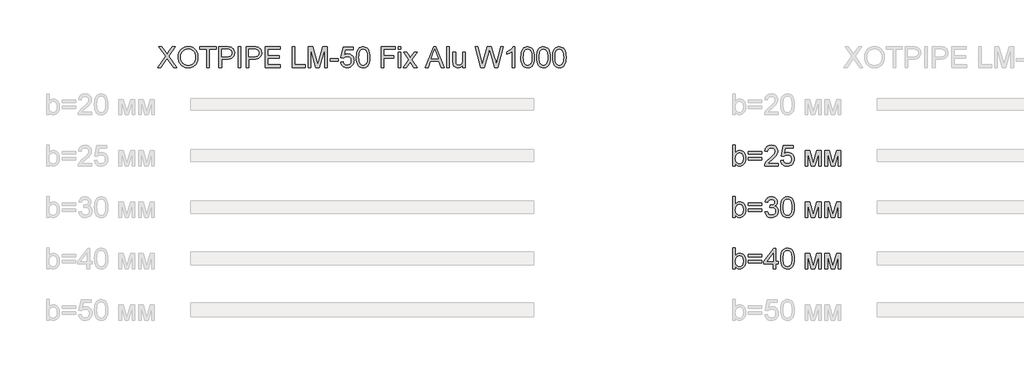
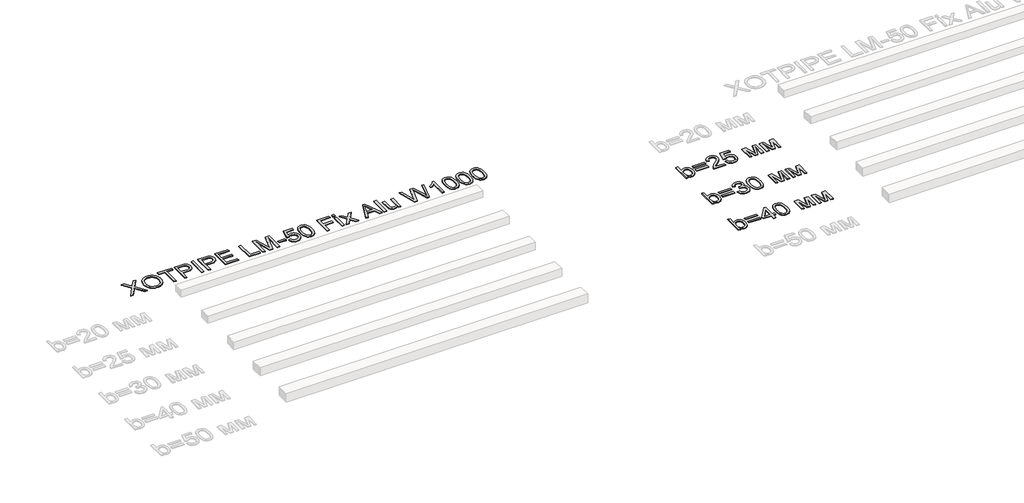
# One storey, part 81 of 86: 4 proxies.
"""IFC4 building model written with IfcOpenShell, lengths in millimetres."""

from ifc_helpers import new_model, si_unit, origin, origin_with_axes, place, context, project, spatial, polyline, outline, extrude, element, save

model = new_model("IFC4")

# Units and contexts
model_context = context("Model", 3, world=origin())
ifc_project = project(units=[si_unit("LENGTHUNIT", "METRE", prefix="MILLI")], contexts=[model_context])

# Site, building, storey
site = spatial("IfcSite", under=ifc_project)
building = spatial("IfcBuilding", under=site)
storey = spatial("IfcBuildingStorey", under=building, Name="Уровень 1", Elevation=0.0)

# Proxies
placement = place(None, origin())
element("IfcBuildingElementProxy", 1, Name="Текст модели 1", ObjectType="Текст модели 1", at=placement, inside=storey, context=model_context, shape_type="SweptSolid", body=[
    extrude(outline(polyline([(92931.546453, 70543.2937088), (93163.9007211, 70871.7387541), (92969.2175693, 71146.0315697), (93059.5693873, 71146.0315697), (93169.1982219, 70991.6682845), (93195.3546317, 70952.5624284), (93206.1335742, 70931.4827901), (93249.3964968, 70992.6983541), (93357.848109, 71146.0315697), (93449.5243022, 71146.0315697), (93254.8411503, 70870.8558373), (93487.1954185, 70543.2937088), (93396.8436005, 70543.2937088), (93242.0388569, 70761.6684611), (93209.8123941, 70806.9915229), (93174.3485698, 70757.2538772), (93023.2226462, 70543.2937088), (92931.546453, 70543.2937088)])), origin_with_axes(), (0.0, 0.0, 1.0), 20.0),
    extrude(outline(polyline([(93534.2843139, 70836.7163882), (93539.3059031, 70907.4141106), (93554.3706708, 70970.000035), (93579.478617, 71024.4741614), (93595.798782, 71048.6693004), (93614.6297416, 71070.8364899), (93657.7179203, 71107.8546156), (93706.6370286, 71134.2961341), (93761.3870665, 71150.1610451), (93821.9680341, 71155.4493488), (93862.517827, 71152.9661453), (93901.0258749, 71145.5165349), (93937.4921776, 71133.1005176), (93971.9167353, 71115.7180933), (94003.3338577, 71093.8934939), (94030.7778546, 71068.1509513), (94054.2487258, 71038.4904655), (94073.7464716, 71004.9120363), (94089.0687567, 70968.1790191), (94100.013246, 70929.0547689), (94106.5799397, 70887.5392858), (94108.7688375, 70843.6325697), (94106.4649765, 70799.1464394), (94099.5533936, 70757.0699362), (94088.0340886, 70717.4030601), (94071.9070616, 70680.145811), (94051.5539902, 70646.2822733), (94027.356552, 70616.7965314), (93999.3147469, 70591.6885853), (93967.428575, 70570.9584348), (93932.9534335, 70554.7348388), (93897.1447198, 70543.146556), (93860.0024339, 70536.1935863), (93821.5265757, 70533.8759297), (93780.2686099, 70536.4373081), (93741.2547244, 70544.1214433), (93704.4849189, 70556.9283352), (93669.9591937, 70574.857984), (93638.5788595, 70597.2160122), (93611.2452273, 70623.3080427), (93587.958297, 70653.1340755), (93568.7180686, 70686.6941105), (93553.6533009, 70722.64078), (93542.8927526, 70759.6267161), (93536.4364235, 70797.6519188), (93534.2843139, 70836.7163882)]), holes=[polyline([(93609.6265465, 70835.9806242), (93613.3927384, 70786.0314463), (93624.6913142, 70741.6924688), (93643.5222738, 70702.9636918), (93669.8856173, 70669.8451151), (93701.9327376, 70643.3208233), (93737.8150277, 70624.3749005), (93777.5324876, 70613.0073469), (93821.0851173, 70609.2181623), (93865.382708, 70613.0441351), (93905.5692175, 70624.5220533), (93941.6446456, 70643.6519171), (93973.6089925, 70670.4337263), (93999.7791979, 70704.2512787), (94018.4722018, 70744.488372), (94029.6880041, 70791.145006), (94033.4266049, 70844.2211809), (94031.8263182, 70878.7009209), (94027.0254582, 70910.9181866), (94019.0240248, 70940.872978), (94007.8220181, 70968.5652952), (93993.5435981, 70993.6318547), (93976.3129252, 71015.7093729), (93956.1299992, 71034.7978499), (93932.9948202, 71050.8972857), (93907.6247581, 71063.6765866), (93880.7371828, 71072.8046586), (93852.3320943, 71078.2815018), (93822.4094925, 71080.1071162), (93780.3697775, 71076.5892446), (93741.365089, 71066.0356298), (93705.3954269, 71048.446272), (93672.4607913, 71023.8211709), (93644.9708092, 70990.9739073), (93625.3351077, 70948.7180616), (93613.5536868, 70897.0536339), (93609.6265465, 70835.9806242)])]), origin_with_axes(), (0.0, 0.0, 1.0), 20.0),
    extrude(outline(polyline([(94363.0488726, 70543.2937088), (94363.0488726, 71070.6893371), (94165.275512, 71070.6893371), (94165.275512, 71146.0315697), (94636.1644658, 71146.0315697), (94636.1644658, 71070.6893371), (94438.3911052, 71070.6893371), (94438.3911052, 70543.2937088), (94363.0488726, 70543.2937088)])), origin_with_axes(), (0.0, 0.0, 1.0), 20.0),
    extrude(outline(polyline([(94720.9244775, 70543.2937088), (94720.9244775, 71146.0315697), (94944.302425, 71146.0315697), (94996.3209391, 71144.5968299), (95034.3599374, 71140.2926106), (95074.5142572, 71129.5688504), (95107.5684544, 71112.1128497), (95134.1847168, 71087.1336623), (95155.0252318, 71053.8403417), (95168.4897128, 71014.5689387), (95172.9778732, 70971.655504), (95169.9474452, 70934.6557723), (95160.8561614, 70900.6174907), (95145.7040218, 70869.5406592), (95124.4910262, 70841.4252777), (95095.3685678, 70818.1199533), (95056.4880394, 70801.473293), (95007.8494411, 70791.4852968), (94949.4527729, 70788.1559648), (94796.2667101, 70788.1559648), (94796.2667101, 70543.2937088), (94720.9244775, 70543.2937088)]), holes=[polyline([(94796.2667101, 70863.4981974), (94953.8673569, 70863.4981974), (94990.1037334, 70865.2272428), (95020.6747272, 70870.4143789), (95045.5803383, 70879.0596058), (95064.8205666, 70891.1629234), (95079.1771615, 70906.4024351), (95089.4318721, 70924.456244), (95095.5846984, 70945.3243502), (95097.6356406, 70969.0067536), (95092.7979923, 71002.8518972), (95078.2850476, 71031.39954), (95055.8994282, 71052.8838485), (95027.4437559, 71065.5389892), (94998.3810783, 71069.4017501), (94952.1015233, 71070.6893371), (94796.2667101, 71070.6893371), (94796.2667101, 70863.4981974)])]), origin_with_axes(), (0.0, 0.0, 1.0), 20.0),
    extrude(outline(polyline([(95285.9912221, 70543.2937088), (95285.9912221, 71146.0315697), (95361.3334547, 71146.0315697), (95361.3334547, 70543.2937088), (95285.9912221, 70543.2937088)])), origin_with_axes(), (0.0, 0.0, 1.0), 20.0),
    extrude(outline(polyline([(95512.0179199, 70543.2937088), (95512.0179199, 71146.0315697), (95735.3958674, 71146.0315697), (95787.4143815, 71144.5968299), (95825.4533798, 71140.2926106), (95865.6076996, 71129.5688504), (95898.6618969, 71112.1128497), (95925.2781592, 71087.1336623), (95946.1186742, 71053.8403417), (95959.5831553, 71014.5689387), (95964.0713156, 70971.655504), (95961.0408877, 70934.6557723), (95951.9496039, 70900.6174907), (95936.7974642, 70869.5406592), (95915.5844686, 70841.4252777), (95886.4620102, 70818.1199533), (95847.5814818, 70801.473293), (95798.9428835, 70791.4852968), (95740.5462153, 70788.1559648), (95587.3601525, 70788.1559648), (95587.3601525, 70543.2937088), (95512.0179199, 70543.2937088)]), holes=[polyline([(95587.3601525, 70863.4981974), (95744.9607993, 70863.4981974), (95781.1971758, 70865.2272428), (95811.7681696, 70870.4143789), (95836.6737807, 70879.0596058), (95855.914009, 70891.1629234), (95870.2706039, 70906.4024351), (95880.5253145, 70924.456244), (95886.6781409, 70945.3243502), (95888.729083, 70969.0067536), (95883.8914348, 71002.8518972), (95869.3784901, 71031.39954), (95846.9928706, 71052.8838485), (95818.5371983, 71065.5389892), (95789.4745207, 71069.4017501), (95743.1949657, 71070.6893371), (95587.3601525, 71070.6893371), (95587.3601525, 70863.4981974)])]), origin_with_axes(), (0.0, 0.0, 1.0), 20.0),
    extrude(outline(polyline([(96067.6668855, 70543.2937088), (96067.6668855, 71146.0315697), (96500.884723, 71146.0315697), (96500.884723, 71070.6893371), (96143.0091181, 71070.6893371), (96143.0091181, 70891.7515346), (96482.0491648, 70891.7515346), (96482.0491648, 70816.409302), (96143.0091181, 70816.409302), (96143.0091181, 70618.6359414), (96510.302502, 70618.6359414), (96510.302502, 70543.2937088), (96067.6668855, 70543.2937088)])), origin_with_axes(), (0.0, 0.0, 1.0), 20.0),
    extrude(outline(polyline([(96858.7603279, 70543.2937088), (96858.7603279, 71146.0315697), (96934.1025605, 71146.0315697), (96934.1025605, 70618.6359414), (97235.4714909, 70618.6359414), (97235.4714909, 70543.2937088), (96858.7603279, 70543.2937088)])), origin_with_axes(), (0.0, 0.0, 1.0), 20.0),
    extrude(outline(polyline([(97320.2315026, 70543.2937088), (97320.2315026, 71146.0315697), (97449.8731177, 71146.0315697), (97573.1871625, 70721.2014417), (97598.0559854, 70632.4683044), (97624.9849474, 70728.5590816), (97746.238853, 71146.0315697), (97875.8804681, 71146.0315697), (97875.8804681, 70543.2937088), (97800.5382355, 70543.2937088), (97800.5382355, 71070.6893371), (97649.1180063, 70543.2937088), (97546.9939645, 70543.2937088), (97395.5737352, 71070.6893371), (97395.5737352, 70543.2937088), (97320.2315026, 70543.2937088)])), origin_with_axes(), (0.0, 0.0, 1.0), 20.0),
    extrude(outline(polyline([(97960.6404798, 70722.2315113), (97960.6404798, 70797.5737439), (98196.0849567, 70797.5737439), (98196.0849567, 70722.2315113), (97960.6404798, 70722.2315113)])), origin_with_axes(), (0.0, 0.0, 1.0), 20.0),
    extrude(outline(polyline([(98262.0094103, 70703.3959531), (98337.3516429, 70712.8137322), (98342.9802374, 70688.5933013), (98351.1840059, 70667.5826409), (98361.9629484, 70649.7817508), (98375.3170648, 70635.1906312), (98391.218764, 70623.8276761), (98409.6404549, 70615.7112795), (98430.5821375, 70610.8414416), (98454.0438118, 70609.2181623), (98482.7386074, 70611.4760381), (98508.0488887, 70618.2496653), (98529.9746556, 70629.539044), (98548.5159081, 70645.3441743), (98563.2587791, 70664.8833067), (98573.7894012, 70687.3746922), (98580.1077745, 70712.8183307), (98582.2138989, 70741.2142222), (98580.2411317, 70768.0512138), (98574.3228301, 70791.9083611), (98564.4589941, 70812.7856644), (98550.6496237, 70830.6831234), (98532.8487337, 70845.0397183), (98511.0103387, 70855.2944289), (98485.1344389, 70861.4472553), (98455.2210341, 70863.4981974), (98418.6719579, 70860.2240476), (98389.0758514, 70850.4015984), (98365.4394332, 70835.3552248), (98346.769422, 70816.409302), (98271.4271894, 70825.8270811), (98337.3516429, 71136.6137906), (98629.3027943, 71136.6137906), (98629.3027943, 71061.271558), (98398.2729013, 71061.271558), (98366.0464385, 70895.2832018), (98392.6351097, 70914.3394891), (98419.8675744, 70927.951123), (98447.7438326, 70936.1181032), (98476.2638843, 70938.84043), (98512.9555148, 70935.4651127), (98546.658104, 70925.3391608), (98577.3716521, 70908.4625743), (98605.096159, 70884.8353531), (98628.047397, 70855.9014342), (98644.4411384, 70823.1047543), (98654.2773832, 70786.4453135), (98657.5561315, 70745.9231117), (98654.6038785, 70706.8908321), (98645.7471195, 70670.5808791), (98630.9858544, 70636.993253), (98610.3200833, 70606.1279536), (98579.0133255, 70574.5176931), (98542.4826434, 70551.9389357), (98500.728037, 70538.3916812), (98453.7495062, 70533.8759297), (98414.8689778, 70536.777599), (98379.7500428, 70545.4826067), (98348.3927013, 70559.9909529), (98320.7969531, 70580.3026375), (98297.8365181, 70605.4059852), (98280.3851159, 70634.2893203), (98268.4427467, 70666.952643), (98262.0094103, 70703.3959531)])), origin_with_axes(), (0.0, 0.0, 1.0), 20.0),
    extrude(outline(polyline([(98723.480585, 70839.8065969), (98729.0172091, 70936.2836501), (98735.9379891, 70977.1967265), (98745.6270811, 71013.2261694), (98758.0430985, 71044.6662845), (98773.1446544, 71071.8113772), (98790.9317488, 71094.6614476), (98811.4043819, 71113.2164957), (98834.6315313, 71127.5730906), (98860.6821751, 71137.8278012), (98889.5563132, 71143.9806276), (98921.2539456, 71146.0315697), (98967.6806534, 71141.1755274), (99009.2513189, 71126.6074004), (99044.0161674, 71102.8974058), (99070.0254245, 71070.6157607), (99089.670323, 71030.0383766), (99105.342096, 70981.4411651), (99115.6060037, 70919.7289604), (99119.0273062, 70839.8065969), (99113.5458645, 70743.8813667), (99106.6940624, 70703.106246), (99097.1015393, 70667.1227884), (99084.782091, 70635.6688778), (99069.749513, 70608.4823983), (99052.0038052, 70585.56335), (99031.5449678, 70566.9117329), (99008.2902272, 70552.458569), (98982.1568099, 70542.1348805), (98953.1447161, 70535.9406674), (98921.2539456, 70533.8759297), (98879.7568566, 70537.4627792), (98842.9686571, 70548.2233275), (98810.8893471, 70566.1575748), (98783.5189266, 70591.265521), (98757.2521522, 70636.6529621), (98738.4901704, 70693.2056218), (98727.2329814, 70760.9235001), (98723.480585, 70839.8065969)]), holes=[polyline([(98798.8228176, 70839.9537497), (98801.0301096, 70774.456959), (98807.6519855, 70721.440565), (98818.6884454, 70680.9045676), (98834.1394892, 70652.848967), (98852.8278945, 70633.7604899), (98873.5764391, 70620.1258635), (98896.3851228, 70611.9450876), (98921.2539456, 70609.2181623), (98946.1227685, 70611.9542847), (98968.9314522, 70620.1626517), (98989.6799967, 70633.8432634), (99008.3684021, 70652.9961198), (99023.8194459, 70681.0977057), (99034.8559057, 70721.624506), (99041.4777817, 70774.5765206), (99043.6850736, 70839.9537497), (99041.5513581, 70903.7168965), (99035.1502113, 70955.79979), (99024.4816335, 70996.2024301), (99009.5456245, 71024.9248169), (98991.1699188, 71044.9467945), (98970.182251, 71059.248207), (98946.582621, 71067.8290546), (98920.3710288, 71070.6893371), (98895.6309647, 71068.1693454), (98873.2085571, 71060.6093704), (98853.103806, 71048.0094121), (98835.3167116, 71030.3694704), (98819.350633, 70999.0995008), (98807.9462911, 70956.9402242), (98801.103686, 70903.8916405), (98798.8228176, 70839.9537497)])]), origin_with_axes(), (0.0, 0.0, 1.0), 20.0),
    extrude(outline(polyline([(99448.6495739, 70543.2937088), (99448.6495739, 71146.0315697), (99853.6140742, 71146.0315697), (99853.6140742, 71070.6893371), (99523.9918065, 71070.6893371), (99523.9918065, 70891.7515346), (99806.5251788, 70891.7515346), (99806.5251788, 70816.409302), (99523.9918065, 70816.409302), (99523.9918065, 70543.2937088), (99448.6495739, 70543.2937088)])), origin_with_axes(), (0.0, 0.0, 1.0), 20.0),
    extrude(outline(polyline([(99947.791865, 70543.2937088), (99947.791865, 70985.9293254), (100023.1340976, 70985.9293254), (100023.1340976, 70543.2937088), (99947.791865, 70543.2937088)])), origin_with_axes(), (0.0, 0.0, 1.0), 20.0),
    extrude(outline(polyline([(99947.791865, 71070.6893371), (99947.791865, 71146.0315697), (100023.1340976, 71146.0315697), (100023.1340976, 71070.6893371), (99947.791865, 71070.6893371)])), origin_with_axes(), (0.0, 0.0, 1.0), 20.0),
    extrude(outline(polyline([(100089.0585511, 70543.2937088), (100250.0437122, 70765.7887395), (100098.4763302, 70985.9293254), (100189.1224538, 70985.9293254), (100262.2573945, 70879.9793108), (100296.3968436, 70829.9473594), (100325.974556, 70870.8558373), (100409.2630397, 70985.9293254), (100499.9091633, 70985.9293254), (100340.6898358, 70765.7887395), (100494.0230514, 70543.2937088), (100403.3769278, 70543.2937088), (100311.1121234, 70677.0556022), (100294.1895516, 70701.4829667), (100179.7046747, 70543.2937088), (100089.0585511, 70543.2937088)])), origin_with_axes(), (0.0, 0.0, 1.0), 20.0),
    extrude(outline(polyline([(100734.6178763, 70543.2937088), (100975.2127011, 71146.0315697), (101039.3713211, 71146.0315697), (101279.9661459, 70543.2937088), (101200.3564822, 70543.2937088), (101131.3418199, 70731.6492903), (100883.0950495, 70731.6492903), (100814.22754, 70543.2937088), (100734.6178763, 70543.2937088)]), holes=[polyline([(100910.7597756, 70806.9915229), (101103.8242466, 70806.9915229), (101049.5248641, 70955.1743906), (101007.2920111, 71070.6893371), (100969.7680476, 70968.1238368), (100910.7597756, 70806.9915229)])]), origin_with_axes(), (0.0, 0.0, 1.0), 20.0),
    extrude(outline(polyline([(101351.0409474, 70543.2937088), (101351.0409474, 71146.0315697), (101426.38318, 71146.0315697), (101426.38318, 70543.2937088), (101351.0409474, 70543.2937088)])), origin_with_axes(), (0.0, 0.0, 1.0), 20.0),
    extrude(outline(polyline([(101821.9299012, 70543.2937088), (101821.9299012, 70619.3717054), (101794.6698454, 70581.9673035), (101762.9216292, 70555.2498736), (101726.6852527, 70539.2194157), (101685.9607158, 70533.8759297), (101649.2644868, 70537.6283261), (101615.1066435, 70548.8855151), (101586.4486361, 70565.8080869), (101566.2519146, 70586.5566314), (101552.6586748, 70611.7565481), (101543.8111129, 70642.0332363), (101539.3965289, 70712.0779682), (101539.3965289, 70985.9293254), (101614.7387615, 70985.9293254), (101614.7387615, 70747.5417925), (101615.8791957, 70699.8642859), (101619.3004983, 70670.7280319), (101630.2817758, 70645.105051), (101649.0989399, 70625.6256993), (101674.5011916, 70613.3200466), (101705.2377323, 70609.2181623), (101737.7401066, 70613.4120171), (101768.1455535, 70625.9935813), (101793.2167115, 70645.8040268), (101809.716219, 70671.6845251), (101818.8764806, 70707.1299554), (101821.9299012, 70755.6351964), (101821.9299012, 70985.9293254), (101897.2721338, 70985.9293254), (101897.2721338, 70543.2937088), (101821.9299012, 70543.2937088)])), origin_with_axes(), (0.0, 0.0, 1.0), 20.0),
    extrude(outline(polyline([(102353.5929606, 70543.2937088), (102189.2232852, 71146.0315697), (102266.9199626, 71146.0315697), (102362.2749757, 70749.8962373), (102391.7055353, 70627.6122621), (102423.1962341, 70735.7695687), (102542.6843062, 71146.0315697), (102654.6675855, 71146.0315697), (102741.4877364, 70848.6357648), (102778.6806061, 70738.2711662), (102806.0878147, 70627.6122621), (102834.6354575, 70746.3645701), (102930.8733875, 71146.0315697), (103008.5700649, 71146.0315697), (102844.0532366, 70543.2937088), (102763.5606561, 70543.2937088), (102619.0566084, 71008.2965507), (102598.896675, 71073.1909347), (102576.2351441, 70995.0527989), (102444.5333898, 70543.2937088), (102353.5929606, 70543.2937088)])), origin_with_axes(), (0.0, 0.0, 1.0), 20.0),
    extrude(outline(polyline([(103338.1923325, 70543.2937088), (103262.8500999, 70543.2937088), (103262.8500999, 71013.0054402), (103231.3961893, 70987.5664003), (103191.4809929, 70962.1641485), (103149.5792336, 70939.9624701), (103112.1656347, 70924.1251502), (103112.1656347, 70995.3471045), (103171.3394536, 71027.5367791), (103222.6038096, 71065.8332947), (103263.0156468, 71106.5578316), (103289.6319092, 71146.0315697), (103338.1923325, 71146.0315697), (103338.1923325, 70543.2937088)])), origin_with_axes(), (0.0, 0.0, 1.0), 20.0),
    extrude(outline(polyline([(103517.130135, 70839.8065969), (103522.666759, 70936.2836501), (103529.587539, 70977.1967265), (103539.2766311, 71013.2261694), (103551.6926484, 71044.6662845), (103566.7942043, 71071.8113772), (103584.5812988, 71094.6614476), (103605.0539318, 71113.2164957), (103628.2810813, 71127.5730906), (103654.3317251, 71137.8278012), (103683.2058632, 71143.9806276), (103714.9034956, 71146.0315697), (103761.3302034, 71141.1755274), (103802.9008688, 71126.6074004), (103837.6657174, 71102.8974058), (103863.6749744, 71070.6157607), (103883.319873, 71030.0383766), (103898.991646, 70981.4411651), (103909.2555536, 70919.7289604), (103912.6768562, 70839.8065969), (103907.1954145, 70743.8813667), (103900.3436123, 70703.106246), (103890.7510893, 70667.1227884), (103878.431641, 70635.6688778), (103863.3990629, 70608.4823983), (103845.6533552, 70585.56335), (103825.1945177, 70566.9117329), (103801.9397771, 70552.458569), (103775.8063599, 70542.1348805), (103746.794266, 70535.9406674), (103714.9034956, 70533.8759297), (103673.4064065, 70537.4627792), (103636.618207, 70548.2233275), (103604.538897, 70566.1575748), (103577.1684766, 70591.265521), (103550.9017021, 70636.6529621), (103532.1397204, 70693.2056218), (103520.8825313, 70760.9235001), (103517.130135, 70839.8065969)]), holes=[polyline([(103592.4723676, 70839.9537497), (103594.6796596, 70774.456959), (103601.3015355, 70721.440565), (103612.3379953, 70680.9045676), (103627.7890391, 70652.848967), (103646.4774445, 70633.7604899), (103667.225989, 70620.1258635), (103690.0346727, 70611.9450876), (103714.9034956, 70609.2181623), (103739.7723185, 70611.9542847), (103762.5810022, 70620.1626517), (103783.3295467, 70633.8432634), (103802.017952, 70652.9961198), (103817.4689958, 70681.0977057), (103828.5054557, 70721.624506), (103835.1273316, 70774.5765206), (103837.3346236, 70839.9537497), (103835.200908, 70903.7168965), (103828.7997613, 70955.79979), (103818.1311834, 70996.2024301), (103803.1951744, 71024.9248169), (103784.8194688, 71044.9467945), (103763.8318009, 71059.248207), (103740.232171, 71067.8290546), (103714.0205788, 71070.6893371), (103689.2805146, 71068.1693454), (103666.858107, 71060.6093704), (103646.753356, 71048.0094121), (103628.9662615, 71030.3694704), (103613.0001829, 70999.0995008), (103601.5958411, 70956.9402242), (103594.753236, 70903.8916405), (103592.4723676, 70839.9537497)])]), origin_with_axes(), (0.0, 0.0, 1.0), 20.0),
    extrude(outline(polyline([(103978.6013097, 70839.8065969), (103984.1379338, 70936.2836501), (103991.0587138, 70977.1967265), (104000.7478058, 71013.2261694), (104013.1638232, 71044.6662845), (104028.2653791, 71071.8113772), (104046.0524735, 71094.6614476), (104066.5251066, 71113.2164957), (104089.7522561, 71127.5730906), (104115.8028998, 71137.8278012), (104144.6770379, 71143.9806276), (104176.3746703, 71146.0315697), (104222.8013781, 71141.1755274), (104264.3720436, 71126.6074004), (104299.1368921, 71102.8974058), (104325.1461492, 71070.6157607), (104344.7910477, 71030.0383766), (104360.4628207, 70981.4411651), (104370.7267284, 70919.7289604), (104374.1480309, 70839.8065969), (104368.6665892, 70743.8813667), (104361.8147871, 70703.106246), (104352.222264, 70667.1227884), (104339.9028157, 70635.6688778), (104324.8702377, 70608.4823983), (104307.12453, 70585.56335), (104286.6656925, 70566.9117329), (104263.4109519, 70552.458569), (104237.2775346, 70542.1348805), (104208.2654408, 70535.9406674), (104176.3746703, 70533.8759297), (104134.8775813, 70537.4627792), (104098.0893818, 70548.2233275), (104066.0100718, 70566.1575748), (104038.6396513, 70591.265521), (104012.3728769, 70636.6529621), (103993.6108951, 70693.2056218), (103982.3537061, 70760.9235001), (103978.6013097, 70839.8065969)]), holes=[polyline([(104053.9435423, 70839.9537497), (104056.1508343, 70774.456959), (104062.7727102, 70721.440565), (104073.8091701, 70680.9045676), (104089.2602139, 70652.848967), (104107.9486192, 70633.7604899), (104128.6971638, 70620.1258635), (104151.5058475, 70611.9450876), (104176.3746703, 70609.2181623), (104201.2434932, 70611.9542847), (104224.0521769, 70620.1626517), (104244.8007214, 70633.8432634), (104263.4891268, 70652.9961198), (104278.9401706, 70681.0977057), (104289.9766304, 70721.624506), (104296.5985064, 70774.5765206), (104298.8057983, 70839.9537497), (104296.6720828, 70903.7168965), (104290.270936, 70955.79979), (104279.6023582, 70996.2024301), (104264.6663492, 71024.9248169), (104246.2906435, 71044.9467945), (104225.3029757, 71059.248207), (104201.7033457, 71067.8290546), (104175.4917536, 71070.6893371), (104150.7516894, 71068.1693454), (104128.3292818, 71060.6093704), (104108.2245307, 71048.0094121), (104090.4374363, 71030.3694704), (104074.4713577, 70999.0995008), (104063.0670158, 70956.9402242), (104056.2244107, 70903.8916405), (104053.9435423, 70839.9537497)])]), origin_with_axes(), (0.0, 0.0, 1.0), 20.0),
    extrude(outline(polyline([(104440.0724845, 70839.8065969), (104445.6091085, 70936.2836501), (104452.5298885, 70977.1967265), (104462.2189806, 71013.2261694), (104474.6349979, 71044.6662845), (104489.7365538, 71071.8113772), (104507.5236483, 71094.6614476), (104527.9962813, 71113.2164957), (104551.2234308, 71127.5730906), (104577.2740746, 71137.8278012), (104606.1482127, 71143.9806276), (104637.8458451, 71146.0315697), (104684.2725529, 71141.1755274), (104725.8432183, 71126.6074004), (104760.6080669, 71102.8974058), (104786.6173239, 71070.6157607), (104806.2622225, 71030.0383766), (104821.9339955, 70981.4411651), (104832.1979031, 70919.7289604), (104835.6192057, 70839.8065969), (104830.137764, 70743.8813667), (104823.2859618, 70703.106246), (104813.6934388, 70667.1227884), (104801.3739905, 70635.6688778), (104786.3414124, 70608.4823983), (104768.5957047, 70585.56335), (104748.1368672, 70566.9117329), (104724.8821266, 70552.458569), (104698.7487094, 70542.1348805), (104669.7366155, 70535.9406674), (104637.8458451, 70533.8759297), (104596.348756, 70537.4627792), (104559.5605565, 70548.2233275), (104527.4812465, 70566.1575748), (104500.1108261, 70591.265521), (104473.8440516, 70636.6529621), (104455.0820699, 70693.2056218), (104443.8248808, 70760.9235001), (104440.0724845, 70839.8065969)]), holes=[polyline([(104515.4147171, 70839.9537497), (104517.6220091, 70774.456959), (104524.243885, 70721.440565), (104535.2803448, 70680.9045676), (104550.7313886, 70652.848967), (104569.419794, 70633.7604899), (104590.1683385, 70620.1258635), (104612.9770222, 70611.9450876), (104637.8458451, 70609.2181623), (104662.714668, 70611.9542847), (104685.5233517, 70620.1626517), (104706.2718962, 70633.8432634), (104724.9603015, 70652.9961198), (104740.4113453, 70681.0977057), (104751.4478052, 70721.624506), (104758.0696811, 70774.5765206), (104760.2769731, 70839.9537497), (104758.1432575, 70903.7168965), (104751.7421108, 70955.79979), (104741.0735329, 70996.2024301), (104726.1375239, 71024.9248169), (104707.7618183, 71044.9467945), (104686.7741504, 71059.248207), (104663.1745205, 71067.8290546), (104636.9629283, 71070.6893371), (104612.2228641, 71068.1693454), (104589.8004565, 71060.6093704), (104569.6957055, 71048.0094121), (104551.908611, 71030.3694704), (104535.9425324, 70999.0995008), (104524.5381906, 70956.9402242), (104517.6955855, 70903.8916405), (104515.4147171, 70839.9537497)])]), origin_with_axes(), (0.0, 0.0, 1.0), 20.0),
])
element("IfcBuildingElementProxy", 2, Name="Текст модели 1", ObjectType="Текст модели 1", at=placement, inside=storey, context=model_context, shape_type="SweptSolid", body=[
    extrude(outline(polyline([(109771.0068445, 67669.2937088), (109695.6646119, 67669.2937088), (109695.6646119, 68272.0315697), (109771.0068445, 68272.0315697), (109771.0068445, 68048.5064694), (109795.7836969, 68080.3742473), (109823.7611226, 68103.1369457), (109854.9391217, 68116.7945648), (109889.3176942, 68121.3471045), (109928.1292447, 68117.2452202), (109964.8070796, 68104.9395675), (109997.2542716, 68085.2026984), (110023.3738932, 68058.8071653), (110043.8465263, 68026.0104854), (110059.3527524, 67987.0701762), (110069.1200193, 67943.6049185), (110072.375775, 67897.233393), (110069.0050562, 67843.7249568), (110058.8928999, 67796.6544555), (110042.039306, 67756.0218892), (110018.4442745, 67721.8272577), (109990.1219594, 67694.7235517), (109959.0865146, 67675.3637617), (109925.33794, 67663.7478877), (109888.8762358, 67659.8759297), (109853.3664262, 67664.8699278), (109821.8849245, 67679.8519221), (109794.4317306, 67704.8219125), (109771.0068445, 67739.7798991), (109771.0068445, 67669.2937088)]), holes=[polyline([(109771.0068445, 67893.7017259), (109776.1571925, 67830.8674811), (109782.5951274, 67807.065516), (109791.6082363, 67788.3403224), (109809.8643803, 67765.0993774), (109831.0819744, 67748.4987024), (109855.2610185, 67738.5382973), (109882.4015127, 67735.2181623), (109904.9342849, 67737.6645776), (109925.8851645, 67745.0038234), (109945.2541516, 67757.2358997), (109963.041246, 67774.3608066), (109977.9128757, 67796.3325588), (109988.5354683, 67823.105171), (109994.9090239, 67854.6786432), (109997.0335424, 67891.0529755), (109994.9963958, 67928.1170865), (109988.8849562, 67959.9940614), (109978.6992234, 67986.6839001), (109964.4391976, 68008.1866028), (109947.2912981, 68024.7320955), (109928.4419444, 68036.5503046), (109907.8911364, 68043.64123), (109885.6388742, 68046.0048719), (109863.106102, 68043.5584566), (109842.1552224, 68036.2192108), (109822.7862354, 68023.9871344), (109804.9991409, 68006.8622276), (109790.1275112, 67985.1112046), (109779.5049186, 67959.00078), (109773.1313631, 67928.5309538), (109771.0068445, 67893.7017259)])]), origin_with_axes(), (0.0, 0.0, 1.0), 20.0),
    extrude(outline(polyline([(110543.2647288, 68017.7515346), (110147.7180076, 68017.7515346), (110147.7180076, 68093.0937672), (110543.2647288, 68093.0937672), (110543.2647288, 68017.7515346)])), origin_with_axes(), (0.0, 0.0, 1.0), 20.0),
    extrude(outline(polyline([(110543.2647288, 67838.8137322), (110147.7180076, 67838.8137322), (110147.7180076, 67914.1559648), (110543.2647288, 67914.1559648), (110543.2647288, 67838.8137322)])), origin_with_axes(), (0.0, 0.0, 1.0), 20.0),
    extrude(outline(polyline([(111014.1536826, 67744.6359414), (111014.1536826, 67669.2937088), (110618.6069614, 67669.2937088), (110620.2624304, 67695.8180007), (110626.7003653, 67721.2386465), (110645.2784061, 67761.8344247), (110672.4648855, 67801.2161923), (110711.7914708, 67842.4373698), (110766.7898291, 67888.5513779), (110848.09175, 67960.7666136), (110896.8729026, 68014.0727147), (110911.1007387, 68035.8513288), (110921.2634789, 68057.3356373), (110927.3611229, 68078.5256402), (110929.393671, 68099.4213376), (110927.4760861, 68119.0800317), (110921.7233314, 68137.1476362), (110912.1354069, 68153.624151), (110898.7123126, 68168.5095763), (110882.1990095, 68180.8382216), (110863.3404587, 68189.6443969), (110842.1366602, 68194.928102), (110818.587614, 68196.6893371), (110793.778572, 68194.9694888), (110771.5906891, 68189.8099438), (110752.0239655, 68181.2107021), (110735.0784011, 68169.1717638), (110721.3701983, 68154.0977991), (110711.5155593, 68136.3934781), (110705.5144843, 68116.0588008), (110703.3669731, 68093.0937672), (110628.0247405, 68102.5115463), (110634.5040621, 68141.4058703), (110646.2900816, 68175.3889696), (110663.3827988, 68204.4608442), (110685.7822137, 68228.6214943), (110712.9732917, 68247.6134023), (110744.4409979, 68261.1790508), (110780.1853322, 68269.31844), (110820.2062948, 68272.0315697), (110860.5859423, 68269.0149373), (110896.5234147, 68259.9650403), (110928.018712, 68244.8818785), (110955.0718342, 68223.7654519), (110976.7998646, 68198.1792592), (110992.3198862, 68169.6867986), (111001.6318992, 68138.2880703), (111004.7359036, 68103.9830743), (111001.3881774, 68067.9490329), (110991.3449989, 68032.5403908), (110973.5211163, 67996.5247435), (110946.8312775, 67958.6696862), (110904.2857248, 67913.4753831), (110838.8947001, 67855.4419984), (110752.2217021, 67782.9692453), (110718.2294057, 67744.6359414), (111014.1536826, 67744.6359414)])), origin_with_axes(), (0.0, 0.0, 1.0), 20.0),
    extrude(outline(polyline([(111089.4959153, 67829.3959531), (111164.8381479, 67838.8137322), (111170.4667424, 67814.5933013), (111178.6705109, 67793.5826409), (111189.4494533, 67775.7817508), (111202.8035698, 67761.1906312), (111218.705269, 67749.8276761), (111237.1269599, 67741.7112795), (111258.0686425, 67736.8414416), (111281.5303167, 67735.2181623), (111310.2251124, 67737.4760381), (111335.5353936, 67744.2496653), (111357.4611605, 67755.539044), (111376.0024131, 67771.3441743), (111390.7452841, 67790.8833067), (111401.2759062, 67813.3746922), (111407.5942794, 67838.8183307), (111409.7004039, 67867.2142222), (111407.7276367, 67894.0512138), (111401.8093351, 67917.9083611), (111391.9454991, 67938.7856644), (111378.1361287, 67956.6831234), (111360.3352386, 67971.0397183), (111338.4968437, 67981.2944289), (111312.6209439, 67987.4472553), (111282.7075391, 67989.4981974), (111246.1584629, 67986.2240476), (111216.5623564, 67976.4015984), (111192.9259382, 67961.3552248), (111174.2559269, 67942.409302), (111098.9136943, 67951.8270811), (111164.8381479, 68262.6137906), (111456.7892992, 68262.6137906), (111456.7892992, 68187.271558), (111225.7594063, 68187.271558), (111193.5329435, 68021.2832018), (111220.1216147, 68040.3394891), (111247.3540794, 68053.951123), (111275.2303376, 68062.1181032), (111303.7503892, 68064.84043), (111340.4420197, 68061.4651127), (111374.144609, 68051.3391608), (111404.8581571, 68034.4625743), (111432.582664, 68010.8353531), (111455.5339019, 67981.9014342), (111471.9276433, 67949.1047543), (111481.7638882, 67912.4453135), (111485.0426365, 67871.9231117), (111482.0903835, 67832.8908321), (111473.2336244, 67796.5808791), (111458.4723594, 67762.993253), (111437.8065883, 67732.1279536), (111406.4998305, 67700.5176931), (111369.9691484, 67677.9389357), (111328.2145419, 67664.3916812), (111281.2360111, 67659.8759297), (111242.3554828, 67662.777599), (111207.2365478, 67671.4826067), (111175.8792062, 67685.9909529), (111148.2834581, 67706.3026375), (111125.3230231, 67731.4059852), (111107.8716209, 67760.2893203), (111095.9292516, 67792.952643), (111089.4959153, 67829.3959531)])), origin_with_axes(), (0.0, 0.0, 1.0), 20.0),
    extrude(outline(polyline([(111805.2471251, 68111.9293254), (111934.8887402, 68111.9293254), (112034.8054901, 67757.5853876), (112142.5213382, 68111.9293254), (112266.7182998, 68111.9293254), (112266.7182998, 67669.2937088), (112191.3760672, 67669.2937088), (112191.3760672, 68025.6977857), (112083.0716078, 67669.2937088), (111984.1849275, 67669.2937088), (111880.5893577, 68042.7675103), (111880.5893577, 67669.2937088), (111805.2471251, 67669.2937088), (111805.2471251, 68111.9293254)])), origin_with_axes(), (0.0, 0.0, 1.0), 20.0),
    extrude(outline(polyline([(112379.7316487, 68111.9293254), (112509.3732638, 68111.9293254), (112609.2900137, 67757.5853876), (112717.0058619, 68111.9293254), (112841.2028235, 68111.9293254), (112841.2028235, 67669.2937088), (112765.8605909, 67669.2937088), (112765.8605909, 68025.6977857), (112657.5561315, 67669.2937088), (112558.6694512, 67669.2937088), (112455.0738813, 68042.7675103), (112455.0738813, 67669.2937088), (112379.7316487, 67669.2937088), (112379.7316487, 68111.9293254)])), origin_with_axes(), (0.0, 0.0, 1.0), 20.0),
])
element("IfcBuildingElementProxy", 3, Name="Текст модели 1", ObjectType="Текст модели 1", at=placement, inside=storey, context=model_context, shape_type="SweptSolid", body=[
    extrude(outline(polyline([(109771.0068445, 66169.2937088), (109695.6646119, 66169.2937088), (109695.6646119, 66772.0315697), (109771.0068445, 66772.0315697), (109771.0068445, 66548.5064694), (109795.7836969, 66580.3742473), (109823.7611226, 66603.1369457), (109854.9391217, 66616.7945648), (109889.3176942, 66621.3471045), (109928.1292447, 66617.2452202), (109964.8070796, 66604.9395675), (109997.2542716, 66585.2026984), (110023.3738932, 66558.8071653), (110043.8465263, 66526.0104854), (110059.3527524, 66487.0701762), (110069.1200193, 66443.6049185), (110072.375775, 66397.233393), (110069.0050562, 66343.7249568), (110058.8928999, 66296.6544555), (110042.039306, 66256.0218892), (110018.4442745, 66221.8272577), (109990.1219594, 66194.7235517), (109959.0865146, 66175.3637617), (109925.33794, 66163.7478877), (109888.8762358, 66159.8759297), (109853.3664262, 66164.8699278), (109821.8849245, 66179.8519221), (109794.4317306, 66204.8219125), (109771.0068445, 66239.7798991), (109771.0068445, 66169.2937088)]), holes=[polyline([(109771.0068445, 66393.7017259), (109776.1571925, 66330.8674811), (109782.5951274, 66307.065516), (109791.6082363, 66288.3403224), (109809.8643803, 66265.0993774), (109831.0819744, 66248.4987024), (109855.2610185, 66238.5382973), (109882.4015127, 66235.2181623), (109904.9342849, 66237.6645776), (109925.8851645, 66245.0038234), (109945.2541516, 66257.2358997), (109963.041246, 66274.3608066), (109977.9128757, 66296.3325588), (109988.5354683, 66323.105171), (109994.9090239, 66354.6786432), (109997.0335424, 66391.0529755), (109994.9963958, 66428.1170865), (109988.8849562, 66459.9940614), (109978.6992234, 66486.6839001), (109964.4391976, 66508.1866028), (109947.2912981, 66524.7320955), (109928.4419444, 66536.5503046), (109907.8911364, 66543.64123), (109885.6388742, 66546.0048719), (109863.106102, 66543.5584566), (109842.1552224, 66536.2192108), (109822.7862354, 66523.9871344), (109804.9991409, 66506.8622276), (109790.1275112, 66485.1112046), (109779.5049186, 66459.00078), (109773.1313631, 66428.5309538), (109771.0068445, 66393.7017259)])]), origin_with_axes(), (0.0, 0.0, 1.0), 20.0),
    extrude(outline(polyline([(110543.2647288, 66517.7515346), (110147.7180076, 66517.7515346), (110147.7180076, 66593.0937672), (110543.2647288, 66593.0937672), (110543.2647288, 66517.7515346)])), origin_with_axes(), (0.0, 0.0, 1.0), 20.0),
    extrude(outline(polyline([(110543.2647288, 66338.8137322), (110147.7180076, 66338.8137322), (110147.7180076, 66414.1559648), (110543.2647288, 66414.1559648), (110543.2647288, 66338.8137322)])), origin_with_axes(), (0.0, 0.0, 1.0), 20.0),
    extrude(outline(polyline([(110628.0247405, 66329.3959531), (110703.3669731, 66338.8137322), (110720.2343626, 66291.4673194), (110731.6065148, 66273.5606633), (110744.9376386, 66259.498374), (110760.5312366, 66248.8757814), (110778.6908116, 66241.2882153), (110799.4163635, 66236.7356756), (110822.7078924, 66235.2181623), (110850.0047364, 66237.3058927), (110874.3585245, 66243.5690836), (110895.7692566, 66254.0077352), (110914.2369328, 66268.6218475), (110929.1085624, 66286.3169715), (110939.731155, 66305.9986582), (110946.1047106, 66327.6669077), (110948.2292291, 66351.32172), (110946.1231047, 66373.8498937), (110939.8047314, 66394.3455193), (110929.2741093, 66412.808597), (110914.5312383, 66429.2391266), (110896.5418088, 66442.7266002), (110876.2715108, 66452.36051), (110853.7203445, 66458.1408558), (110828.8883099, 66460.0676378), (110805.0863448, 66458.0074986), (110776.0604554, 66451.8270811), (110784.4481649, 66527.1693137), (110796.5146943, 66526.2863969), (110841.6538151, 66531.6942622), (110882.01047, 66547.9178582), (110898.6203421, 66560.1867228), (110910.4845364, 66575.3618551), (110917.603053, 66593.4432551), (110919.9758919, 66614.430923), (110918.2560435, 66631.4684579), (110913.0964986, 66646.9700854), (110904.4972569, 66660.9358057), (110892.4583186, 66673.3656186), (110877.7062506, 66683.5697454), (110860.9676198, 66690.8584075), (110821.53067, 66696.6893371), (110800.8740959, 66695.2178091), (110782.0201437, 66690.8032252), (110764.9688132, 66683.4455853), (110749.7201045, 66673.1448894), (110736.6510966, 66659.9011376), (110726.1388686, 66643.7143298), (110718.1834205, 66624.584466), (110712.7847522, 66602.5115463), (110637.4425196, 66611.9293254), (110646.372855, 66647.8989875), (110659.6258039, 66679.5828243), (110677.2013662, 66706.9808359), (110699.099542, 66730.0930222), (110724.6305524, 66748.4411368), (110753.1046189, 66761.5469328), (110784.5217413, 66769.4104105), (110818.8819196, 66772.0315697), (110866.2467265, 66766.8628277), (110909.7487724, 66751.3566016), (110946.4266073, 66726.8924489), (110973.3187812, 66694.8499271), (110989.8182887, 66657.9329689), (110995.3181245, 66618.8455069), (110990.0942002, 66582.4251894), (110974.4224272, 66549.3893862), (110948.5235347, 66521.2464136), (110912.618252, 66499.5045877), (110937.7261981, 66491.6503071), (110959.7807238, 66480.4483003), (110978.7818288, 66465.8985674), (110994.7295133, 66448.0011083), (111007.3478657, 66427.1973815), (111016.3609746, 66403.9288453), (111021.7688399, 66378.1954998), (111023.5714617, 66349.9973448), (111019.9662182, 66311.7744055), (111009.1504875, 66276.5680986), (110991.1242697, 66244.378424), (110965.8875649, 66215.2053818), (110935.1418271, 66190.9987465), (110900.5885107, 66173.7082927), (110862.2276157, 66163.3340205), (110820.059142, 66159.8759297), (110781.9465673, 66162.8281827), (110747.2185069, 66171.6849418), (110715.874961, 66186.4462068), (110687.9159293, 66207.1119779), (110664.4726492, 66232.4682444), (110646.6763577, 66261.3009958), (110634.5270548, 66293.610232), (110628.0247405, 66329.3959531)])), origin_with_axes(), (0.0, 0.0, 1.0), 20.0),
    extrude(outline(polyline([(111089.4959153, 66465.8065969), (111095.0325393, 66562.2836501), (111101.9533193, 66603.1967265), (111111.6424114, 66639.2261694), (111124.0584287, 66670.6662845), (111139.1599846, 66697.8113772), (111156.9470791, 66720.6614476), (111177.4197121, 66739.2164957), (111200.6468616, 66753.5730906), (111226.6975054, 66763.8278012), (111255.5716435, 66769.9806276), (111287.2692759, 66772.0315697), (111333.6959837, 66767.1755274), (111375.2666491, 66752.6074004), (111410.0314977, 66728.8974058), (111436.0407547, 66696.6157607), (111455.6856533, 66656.0383766), (111471.3574262, 66607.4411651), (111481.6213339, 66545.7289604), (111485.0426365, 66465.8065969), (111479.5611947, 66369.8813667), (111472.7093926, 66329.106246), (111463.1168696, 66293.1227884), (111450.7974212, 66261.6688778), (111435.7648432, 66234.4823983), (111418.0191355, 66211.56335), (111397.560298, 66192.9117329), (111374.3055574, 66178.458569), (111348.1721402, 66168.1348805), (111319.1600463, 66161.9406674), (111287.2692759, 66159.8759297), (111245.7721868, 66163.4627792), (111208.9839873, 66174.2233275), (111176.9046773, 66192.1575748), (111149.5342569, 66217.265521), (111123.2674824, 66262.6529621), (111104.5055007, 66319.2056218), (111093.2483116, 66386.9235001), (111089.4959153, 66465.8065969)]), holes=[polyline([(111164.8381479, 66465.9537497), (111167.0454398, 66400.456959), (111173.6673158, 66347.440565), (111184.7037756, 66306.9045676), (111200.1548194, 66278.848967), (111218.8432248, 66259.7604899), (111239.5917693, 66246.1258635), (111262.400453, 66237.9450876), (111287.2692759, 66235.2181623), (111312.1380987, 66237.9542847), (111334.9467824, 66246.1626517), (111355.695327, 66259.8432634), (111374.3837323, 66278.9961198), (111389.8347761, 66307.0977057), (111400.871236, 66347.624506), (111407.4931119, 66400.5765206), (111409.7004039, 66465.9537497), (111407.5666883, 66529.7168965), (111401.1655416, 66581.79979), (111390.4969637, 66622.2024301), (111375.5609547, 66650.9248169), (111357.185249, 66670.9467945), (111336.1975812, 66685.248207), (111312.5979512, 66693.8290546), (111286.3863591, 66696.6893371), (111261.6462949, 66694.1693454), (111239.2238873, 66686.6093704), (111219.1191363, 66674.0094121), (111201.3320418, 66656.3694704), (111185.3659632, 66625.0995008), (111173.9616213, 66582.9402242), (111167.1190162, 66529.8916405), (111164.8381479, 66465.9537497)])]), origin_with_axes(), (0.0, 0.0, 1.0), 20.0),
    extrude(outline(polyline([(111805.2471251, 66611.9293254), (111934.8887402, 66611.9293254), (112034.8054901, 66257.5853876), (112142.5213382, 66611.9293254), (112266.7182998, 66611.9293254), (112266.7182998, 66169.2937088), (112191.3760672, 66169.2937088), (112191.3760672, 66525.6977857), (112083.0716078, 66169.2937088), (111984.1849275, 66169.2937088), (111880.5893577, 66542.7675103), (111880.5893577, 66169.2937088), (111805.2471251, 66169.2937088), (111805.2471251, 66611.9293254)])), origin_with_axes(), (0.0, 0.0, 1.0), 20.0),
    extrude(outline(polyline([(112379.7316487, 66611.9293254), (112509.3732638, 66611.9293254), (112609.2900137, 66257.5853876), (112717.0058619, 66611.9293254), (112841.2028235, 66611.9293254), (112841.2028235, 66169.2937088), (112765.8605909, 66169.2937088), (112765.8605909, 66525.6977857), (112657.5561315, 66169.2937088), (112558.6694512, 66169.2937088), (112455.0738813, 66542.7675103), (112455.0738813, 66169.2937088), (112379.7316487, 66169.2937088), (112379.7316487, 66611.9293254)])), origin_with_axes(), (0.0, 0.0, 1.0), 20.0),
])
element("IfcBuildingElementProxy", 4, Name="Текст модели 1", ObjectType="Текст модели 1", at=placement, inside=storey, context=model_context, shape_type="SweptSolid", body=[
    extrude(outline(polyline([(109771.0068445, 64669.2937088), (109695.6646119, 64669.2937088), (109695.6646119, 65272.0315697), (109771.0068445, 65272.0315697), (109771.0068445, 65048.5064694), (109795.7836969, 65080.3742473), (109823.7611226, 65103.1369457), (109854.9391217, 65116.7945648), (109889.3176942, 65121.3471045), (109928.1292447, 65117.2452202), (109964.8070796, 65104.9395675), (109997.2542716, 65085.2026984), (110023.3738932, 65058.8071653), (110043.8465263, 65026.0104854), (110059.3527524, 64987.0701762), (110069.1200193, 64943.6049185), (110072.375775, 64897.233393), (110069.0050562, 64843.7249568), (110058.8928999, 64796.6544555), (110042.039306, 64756.0218892), (110018.4442745, 64721.8272577), (109990.1219594, 64694.7235517), (109959.0865146, 64675.3637617), (109925.33794, 64663.7478877), (109888.8762358, 64659.8759297), (109853.3664262, 64664.8699278), (109821.8849245, 64679.8519221), (109794.4317306, 64704.8219125), (109771.0068445, 64739.7798991), (109771.0068445, 64669.2937088)]), holes=[polyline([(109771.0068445, 64893.7017259), (109776.1571925, 64830.8674811), (109782.5951274, 64807.065516), (109791.6082363, 64788.3403224), (109809.8643803, 64765.0993774), (109831.0819744, 64748.4987024), (109855.2610185, 64738.5382973), (109882.4015127, 64735.2181623), (109904.9342849, 64737.6645776), (109925.8851645, 64745.0038234), (109945.2541516, 64757.2358997), (109963.041246, 64774.3608066), (109977.9128757, 64796.3325588), (109988.5354683, 64823.105171), (109994.9090239, 64854.6786432), (109997.0335424, 64891.0529755), (109994.9963958, 64928.1170865), (109988.8849562, 64959.9940614), (109978.6992234, 64986.6839001), (109964.4391976, 65008.1866028), (109947.2912981, 65024.7320955), (109928.4419444, 65036.5503046), (109907.8911364, 65043.64123), (109885.6388742, 65046.0048719), (109863.106102, 65043.5584566), (109842.1552224, 65036.2192108), (109822.7862354, 65023.9871344), (109804.9991409, 65006.8622276), (109790.1275112, 64985.1112046), (109779.5049186, 64959.00078), (109773.1313631, 64928.5309538), (109771.0068445, 64893.7017259)])]), origin_with_axes(), (0.0, 0.0, 1.0), 20.0),
    extrude(outline(polyline([(110543.2647288, 65017.7515346), (110147.7180076, 65017.7515346), (110147.7180076, 65093.0937672), (110543.2647288, 65093.0937672), (110543.2647288, 65017.7515346)])), origin_with_axes(), (0.0, 0.0, 1.0), 20.0),
    extrude(outline(polyline([(110543.2647288, 64838.8137322), (110147.7180076, 64838.8137322), (110147.7180076, 64914.1559648), (110543.2647288, 64914.1559648), (110543.2647288, 64838.8137322)])), origin_with_axes(), (0.0, 0.0, 1.0), 20.0),
    extrude(outline(polyline([(110872.8869965, 64669.2937088), (110872.8869965, 64810.5603949), (110599.7714033, 64810.5603949), (110599.7714033, 64885.9026276), (110891.7225546, 65262.6137906), (110948.2292291, 65262.6137906), (110948.2292291, 64885.9026276), (111023.5714617, 64885.9026276), (111023.5714617, 64810.5603949), (110948.2292291, 64810.5603949), (110948.2292291, 64669.2937088), (110872.8869965, 64669.2937088)]), holes=[polyline([(110872.8869965, 64885.9026276), (110872.8869965, 65118.6983541), (110692.4776661, 64885.9026276), (110872.8869965, 64885.9026276)])]), origin_with_axes(), (0.0, 0.0, 1.0), 20.0),
    extrude(outline(polyline([(111089.4959153, 64965.8065969), (111095.0325393, 65062.2836501), (111101.9533193, 65103.1967265), (111111.6424114, 65139.2261694), (111124.0584287, 65170.6662845), (111139.1599846, 65197.8113772), (111156.9470791, 65220.6614476), (111177.4197121, 65239.2164957), (111200.6468616, 65253.5730906), (111226.6975054, 65263.8278012), (111255.5716435, 65269.9806276), (111287.2692759, 65272.0315697), (111333.6959837, 65267.1755274), (111375.2666491, 65252.6074004), (111410.0314977, 65228.8974058), (111436.0407547, 65196.6157607), (111455.6856533, 65156.0383766), (111471.3574262, 65107.4411651), (111481.6213339, 65045.7289604), (111485.0426365, 64965.8065969), (111479.5611947, 64869.8813667), (111472.7093926, 64829.106246), (111463.1168696, 64793.1227884), (111450.7974212, 64761.6688778), (111435.7648432, 64734.4823983), (111418.0191355, 64711.56335), (111397.560298, 64692.9117329), (111374.3055574, 64678.458569), (111348.1721402, 64668.1348805), (111319.1600463, 64661.9406674), (111287.2692759, 64659.8759297), (111245.7721868, 64663.4627792), (111208.9839873, 64674.2233275), (111176.9046773, 64692.1575748), (111149.5342569, 64717.265521), (111123.2674824, 64762.6529621), (111104.5055007, 64819.2056218), (111093.2483116, 64886.9235001), (111089.4959153, 64965.8065969)]), holes=[polyline([(111164.8381479, 64965.9537497), (111167.0454398, 64900.456959), (111173.6673158, 64847.440565), (111184.7037756, 64806.9045676), (111200.1548194, 64778.848967), (111218.8432248, 64759.7604899), (111239.5917693, 64746.1258635), (111262.400453, 64737.9450876), (111287.2692759, 64735.2181623), (111312.1380987, 64737.9542847), (111334.9467824, 64746.1626517), (111355.695327, 64759.8432634), (111374.3837323, 64778.9961198), (111389.8347761, 64807.0977057), (111400.871236, 64847.624506), (111407.4931119, 64900.5765206), (111409.7004039, 64965.9537497), (111407.5666883, 65029.7168965), (111401.1655416, 65081.79979), (111390.4969637, 65122.2024301), (111375.5609547, 65150.9248169), (111357.185249, 65170.9467945), (111336.1975812, 65185.248207), (111312.5979512, 65193.8290546), (111286.3863591, 65196.6893371), (111261.6462949, 65194.1693454), (111239.2238873, 65186.6093704), (111219.1191363, 65174.0094121), (111201.3320418, 65156.3694704), (111185.3659632, 65125.0995008), (111173.9616213, 65082.9402242), (111167.1190162, 65029.8916405), (111164.8381479, 64965.9537497)])]), origin_with_axes(), (0.0, 0.0, 1.0), 20.0),
    extrude(outline(polyline([(111805.2471251, 65111.9293254), (111934.8887402, 65111.9293254), (112034.8054901, 64757.5853876), (112142.5213382, 65111.9293254), (112266.7182998, 65111.9293254), (112266.7182998, 64669.2937088), (112191.3760672, 64669.2937088), (112191.3760672, 65025.6977857), (112083.0716078, 64669.2937088), (111984.1849275, 64669.2937088), (111880.5893577, 65042.7675103), (111880.5893577, 64669.2937088), (111805.2471251, 64669.2937088), (111805.2471251, 65111.9293254)])), origin_with_axes(), (0.0, 0.0, 1.0), 20.0),
    extrude(outline(polyline([(112379.7316487, 65111.9293254), (112509.3732638, 65111.9293254), (112609.2900137, 64757.5853876), (112717.0058619, 65111.9293254), (112841.2028235, 65111.9293254), (112841.2028235, 64669.2937088), (112765.8605909, 64669.2937088), (112765.8605909, 65025.6977857), (112657.5561315, 64669.2937088), (112558.6694512, 64669.2937088), (112455.0738813, 65042.7675103), (112455.0738813, 64669.2937088), (112379.7316487, 64669.2937088), (112379.7316487, 65111.9293254)])), origin_with_axes(), (0.0, 0.0, 1.0), 20.0),
])

save(model, "model.ifc")
